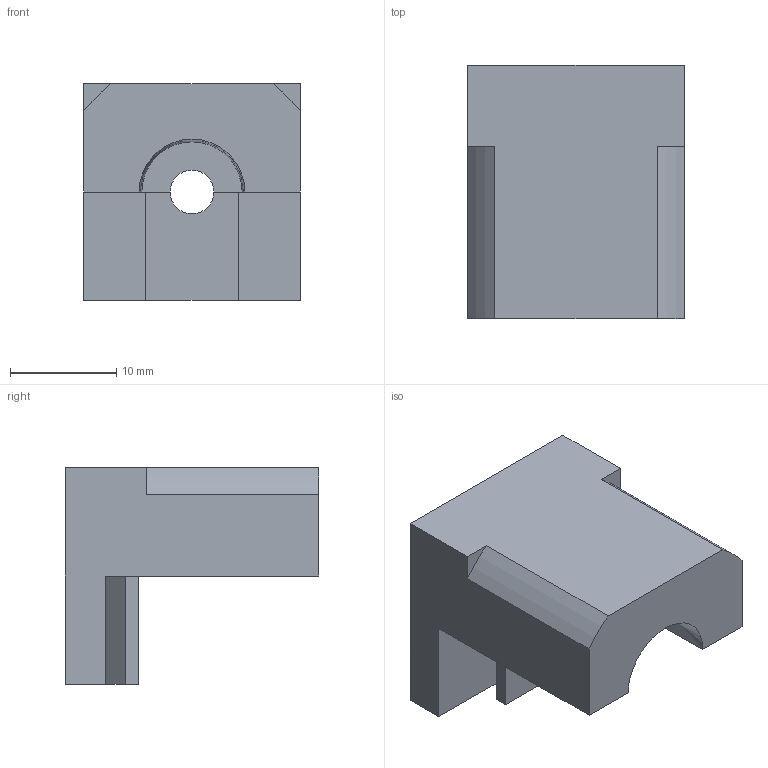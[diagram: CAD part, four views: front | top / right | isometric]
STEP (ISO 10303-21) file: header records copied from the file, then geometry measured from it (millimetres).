
FILE_DESCRIPTION(/* description */ (''),/* implementation_level */ '2;1');
FILE_NAME(/* name */ 'D:\~~GatCad\BWA - Ammo\BWA-Ammo V1.0\STEP\Case Sizer Left.stp',/* time_stamp */ '2020-06-11T18:31:29-05:00',/* author */ ('johne'),/* organization */ (''),/* preprocessor_version */ 'ST-DEVELOPER v18',/* originating_system */ 'Autodesk Inventor 2020',/* authorisation */ '');
FILE_SCHEMA (('AUTOMOTIVE_DESIGN { 1 0 10303 214 3 1 1 }'));
Length unit declared in the file: inch
Products named in the file (1): Case Tool
Bounding box: 20.32 x 23.79 x 20.32 mm (x, y, z)
Volume: 5139.7 mm3; surface area: 2572 mm2
Topology: 1 solids, 1 shells, 26 faces, 74 edges, 49 vertices
Faces by surface type: plane 18, cylinder 4, cone 2, bspline 1, torus 1
Full cylindrical faces by diameter (mm): 4.12 x1
Entity records: 904 total; most frequent: CARTESIAN_POINT 164, ORIENTED_EDGE 148, DIRECTION 143, EDGE_CURVE 74, LINE 57, VECTOR 57, VERTEX_POINT 49, AXIS2_PLACEMENT_3D 43
